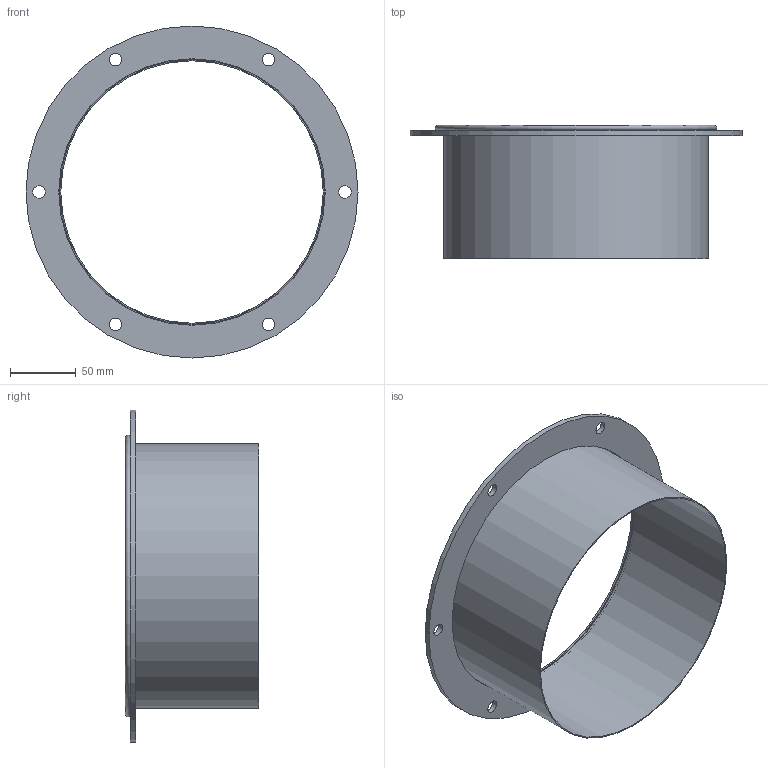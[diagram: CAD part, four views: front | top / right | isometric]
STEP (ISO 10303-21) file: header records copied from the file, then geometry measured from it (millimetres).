
FILE_DESCRIPTION(/* description */ (''),/* implementation_level */ '2;1');
FILE_NAME(/* name */ 'METU_AA101-41B_200_L100.stp',/* time_stamp */ '2018-10-10T11:39:52+02:00',/* author */ (''),/* organization */ (''),/* preprocessor_version */ 'ST-DEVELOPER v11',/* originating_system */ 'SIEMENS UGS NX 6.0',/* authorisation */ '');
FILE_SCHEMA (('CONFIG_CONTROL_DESIGN'));
Length unit declared in the file: millimetre
Products named in the file (1): garsCF17ddt6
Bounding box: 253 x 101.5 x 253 mm (x, y, z)
Volume: 136171.8 mm3; surface area: 194768.2 mm2
Topology: 3 solids, 3 shells, 25 faces, 55 edges, 39 vertices
Faces by surface type: cylinder 14, plane 9, torus 2
Full cylindrical faces by diameter (mm): 9.5 x6, 200 x2, 201.6 x2, 203 x1, 211.6 x2, 253 x1
Entity records: 682 total; most frequent: DIRECTION 114, CARTESIAN_POINT 88, FACE_BOUND 62, EDGE_LOOP 62, ORIENTED_EDGE 62, AXIS2_PLACEMENT_3D 57, VERTEX_POINT 31, EDGE_CURVE 31
